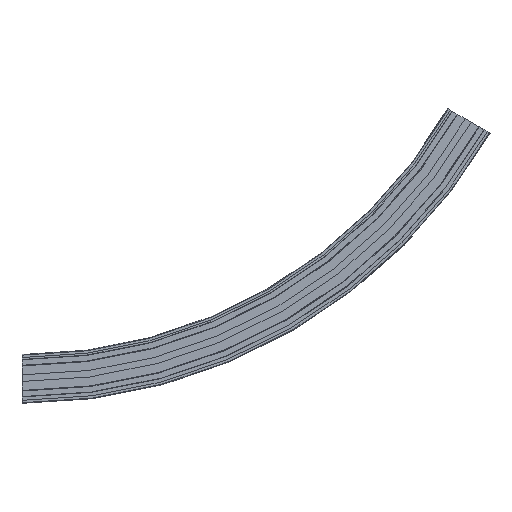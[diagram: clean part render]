
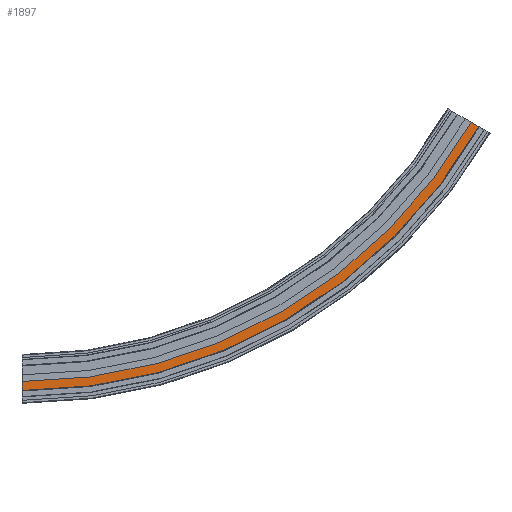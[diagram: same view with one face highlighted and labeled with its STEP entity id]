
A CAD part, front view. The second image highlights one B-rep face of the part: STEP entity #1897.
In plain terms, the highlighted planar face has unit normal (0, -1, 0).
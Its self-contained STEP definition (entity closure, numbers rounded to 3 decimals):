
#1839=CARTESIAN_POINT('',(762.535,-43.0,380.25));
#1840=VERTEX_POINT('',#1839);
#1847=CARTESIAN_POINT('',(0.0,-43.0,-60.));
#1848=VERTEX_POINT('',#1847);
#1849=CARTESIAN_POINT('',(0.,-43.0,820.5));
#1850=DIRECTION('',(0.0,-1.0,0.0));
#1851=DIRECTION('',(-0.866,0.0,0.5));
#1852=AXIS2_PLACEMENT_3D('',#1849,#1850,#1851);
#1853=CIRCLE('',#1852,880.5);
#1854=EDGE_CURVE('',#1848,#1840,#1853,.T.);
#1866=CARTESIAN_POINT('',(0.0,-43.0,-52.5));
#1867=DIRECTION('',(0.0,-1.0,0.0));
#1868=DIRECTION('',(0.0,0.0,-1.0));
#1869=AXIS2_PLACEMENT_3D('',#1866,#1867,#1868);
#1870=PLANE('',#1869);
#1871=CARTESIAN_POINT('',(749.545,-43.0,387.75));
#1872=VERTEX_POINT('',#1871);
#1873=CARTESIAN_POINT('',(762.535,-43.0,380.25));
#1874=DIRECTION('',(-0.866,0.0,0.5));
#1875=VECTOR('',#1874,15.);
#1876=LINE('',#1873,#1875);
#1877=EDGE_CURVE('',#1840,#1872,#1876,.T.);
#1878=ORIENTED_EDGE('',*,*,#1877,.T.);
#1879=CARTESIAN_POINT('',(0.0,-43.0,-45.));
#1880=VERTEX_POINT('',#1879);
#1881=CARTESIAN_POINT('',(0.,-43.0,820.5));
#1882=DIRECTION('',(0.0,-1.0,0.0));
#1883=DIRECTION('',(-0.866,0.0,0.5));
#1884=AXIS2_PLACEMENT_3D('',#1881,#1882,#1883);
#1885=CIRCLE('',#1884,865.5);
#1886=EDGE_CURVE('',#1880,#1872,#1885,.T.);
#1887=ORIENTED_EDGE('',*,*,#1886,.F.);
#1888=CARTESIAN_POINT('',(0.0,-43.0,-45.));
#1889=DIRECTION('',(0.0,0.0,-1.0));
#1890=VECTOR('',#1889,15.0);
#1891=LINE('',#1888,#1890);
#1892=EDGE_CURVE('',#1880,#1848,#1891,.T.);
#1893=ORIENTED_EDGE('',*,*,#1892,.T.);
#1894=ORIENTED_EDGE('',*,*,#1854,.T.);
#1895=EDGE_LOOP('',(#1878,#1887,#1893,#1894));
#1896=FACE_OUTER_BOUND('',#1895,.T.);
#1897=ADVANCED_FACE('',(#1896),#1870,.T.);
